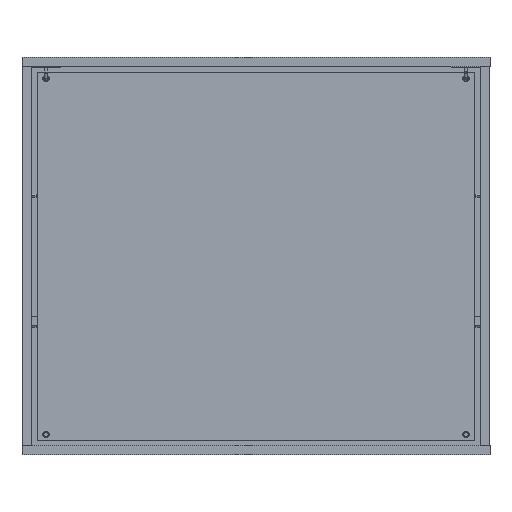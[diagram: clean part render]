
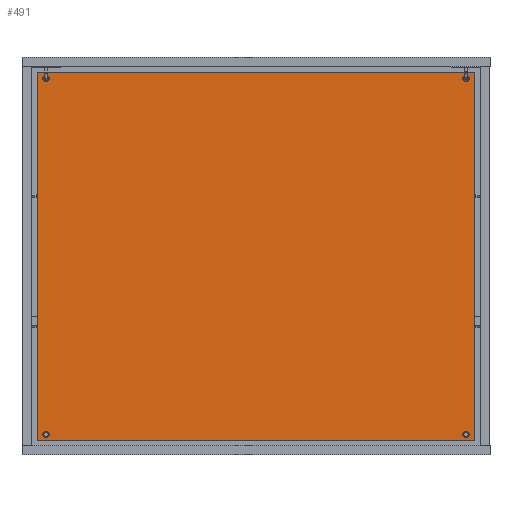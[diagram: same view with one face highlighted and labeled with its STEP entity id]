
A CAD part, front view. The second image highlights one B-rep face of the part: STEP entity #491.
In plain terms, the highlighted planar face has unit normal (0, -1, 0).
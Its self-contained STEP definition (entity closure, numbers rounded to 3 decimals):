
#277=FACE_BOUND('',#1093,.T.);
#278=FACE_BOUND('',#1094,.T.);
#279=FACE_BOUND('',#1095,.T.);
#280=FACE_BOUND('',#1096,.T.);
#491=ADVANCED_FACE('',(#776,#277,#278,#279,#280),#4440,.T.);
#776=FACE_OUTER_BOUND('',#1092,.T.);
#1092=EDGE_LOOP('',(#2145,#2146,#2147,#2148));
#1093=EDGE_LOOP('',(#2149,#2150));
#1094=EDGE_LOOP('',(#2151,#2152));
#1095=EDGE_LOOP('',(#2153,#2154));
#1096=EDGE_LOOP('',(#2155,#2156));
#2145=ORIENTED_EDGE('',*,*,#3014,.F.);
#2146=ORIENTED_EDGE('',*,*,#3018,.F.);
#2147=ORIENTED_EDGE('',*,*,#3021,.F.);
#2148=ORIENTED_EDGE('',*,*,#3024,.F.);
#2149=ORIENTED_EDGE('',*,*,#3003,.T.);
#2150=ORIENTED_EDGE('',*,*,#3028,.T.);
#2151=ORIENTED_EDGE('',*,*,#3006,.T.);
#2152=ORIENTED_EDGE('',*,*,#3031,.T.);
#2153=ORIENTED_EDGE('',*,*,#3009,.T.);
#2154=ORIENTED_EDGE('',*,*,#3034,.T.);
#2155=ORIENTED_EDGE('',*,*,#3012,.T.);
#2156=ORIENTED_EDGE('',*,*,#3037,.T.);
#3003=EDGE_CURVE('',#4205,#4220,#3852,.T.);
#3006=EDGE_CURVE('',#4207,#4223,#3854,.T.);
#3009=EDGE_CURVE('',#4209,#4225,#3856,.T.);
#3012=EDGE_CURVE('',#4211,#4226,#3858,.T.);
#3014=EDGE_CURVE('',#4212,#4213,#3512,.T.);
#3018=EDGE_CURVE('',#4216,#4212,#3516,.T.);
#3021=EDGE_CURVE('',#4218,#4216,#3519,.T.);
#3024=EDGE_CURVE('',#4213,#4218,#3522,.T.);
#3028=EDGE_CURVE('',#4220,#4205,#3860,.T.);
#3031=EDGE_CURVE('',#4223,#4207,#3862,.T.);
#3034=EDGE_CURVE('',#4225,#4209,#3864,.T.);
#3037=EDGE_CURVE('',#4226,#4211,#3866,.T.);
#3512=B_SPLINE_CURVE_WITH_KNOTS('',1,(#11547,#11548),.UNSPECIFIED.,.F.,
 .F.,(2,2),(0.,748.),.UNSPECIFIED.);
#3516=B_SPLINE_CURVE_WITH_KNOTS('',1,(#11555,#11556),.UNSPECIFIED.,.F.,
 .F.,(2,2),(0.,630.),.UNSPECIFIED.);
#3519=B_SPLINE_CURVE_WITH_KNOTS('',1,(#11561,#11562),.UNSPECIFIED.,.F.,
 .F.,(2,2),(0.,748.),.UNSPECIFIED.);
#3522=B_SPLINE_CURVE_WITH_KNOTS('',1,(#11567,#11568),.UNSPECIFIED.,.F.,
 .F.,(2,2),(0.,630.),.UNSPECIFIED.);
#3852=(
BOUNDED_CURVE()
B_SPLINE_CURVE(2,(#11504,#11505,#11506,#11507,#11508),.UNSPECIFIED.,.F.,
 .F.)
B_SPLINE_CURVE_WITH_KNOTS((3,2,3),(-25.133,-18.85,
-12.566),.UNSPECIFIED.)
CURVE()
GEOMETRIC_REPRESENTATION_ITEM()
RATIONAL_B_SPLINE_CURVE((1.,0.707,1.,0.707,1.))
REPRESENTATION_ITEM('')
);
#3854=(
BOUNDED_CURVE()
B_SPLINE_CURVE(2,(#11516,#11517,#11518,#11519,#11520),.UNSPECIFIED.,.F.,
 .F.)
B_SPLINE_CURVE_WITH_KNOTS((3,2,3),(-25.133,-18.85,
-12.566),.UNSPECIFIED.)
CURVE()
GEOMETRIC_REPRESENTATION_ITEM()
RATIONAL_B_SPLINE_CURVE((1.,0.707,1.,0.707,1.))
REPRESENTATION_ITEM('')
);
#3856=(
BOUNDED_CURVE()
B_SPLINE_CURVE(2,(#11528,#11529,#11530,#11531,#11532),.UNSPECIFIED.,.F.,
 .F.)
B_SPLINE_CURVE_WITH_KNOTS((3,2,3),(-25.133,-18.85,
-12.566),.UNSPECIFIED.)
CURVE()
GEOMETRIC_REPRESENTATION_ITEM()
RATIONAL_B_SPLINE_CURVE((1.,0.707,1.,0.707,1.))
REPRESENTATION_ITEM('')
);
#3858=(
BOUNDED_CURVE()
B_SPLINE_CURVE(2,(#11540,#11541,#11542,#11543,#11544),.UNSPECIFIED.,.F.,
 .F.)
B_SPLINE_CURVE_WITH_KNOTS((3,2,3),(-25.133,-18.85,
-12.566),.UNSPECIFIED.)
CURVE()
GEOMETRIC_REPRESENTATION_ITEM()
RATIONAL_B_SPLINE_CURVE((1.,0.707,1.,0.707,1.))
REPRESENTATION_ITEM('')
);
#3860=(
BOUNDED_CURVE()
B_SPLINE_CURVE(2,(#11578,#11579,#11580,#11581,#11582),.UNSPECIFIED.,.F.,
 .F.)
B_SPLINE_CURVE_WITH_KNOTS((3,2,3),(-12.566,-6.283,
0.),.UNSPECIFIED.)
CURVE()
GEOMETRIC_REPRESENTATION_ITEM()
RATIONAL_B_SPLINE_CURVE((1.,0.707,1.,0.707,1.))
REPRESENTATION_ITEM('')
);
#3862=(
BOUNDED_CURVE()
B_SPLINE_CURVE(2,(#11590,#11591,#11592,#11593,#11594),.UNSPECIFIED.,.F.,
 .F.)
B_SPLINE_CURVE_WITH_KNOTS((3,2,3),(-12.566,-6.283,
0.),.UNSPECIFIED.)
CURVE()
GEOMETRIC_REPRESENTATION_ITEM()
RATIONAL_B_SPLINE_CURVE((1.,0.707,1.,0.707,1.))
REPRESENTATION_ITEM('')
);
#3864=(
BOUNDED_CURVE()
B_SPLINE_CURVE(2,(#11602,#11603,#11604,#11605,#11606),.UNSPECIFIED.,.F.,
 .F.)
B_SPLINE_CURVE_WITH_KNOTS((3,2,3),(-12.566,-6.283,
0.),.UNSPECIFIED.)
CURVE()
GEOMETRIC_REPRESENTATION_ITEM()
RATIONAL_B_SPLINE_CURVE((1.,0.707,1.,0.707,1.))
REPRESENTATION_ITEM('')
);
#3866=(
BOUNDED_CURVE()
B_SPLINE_CURVE(2,(#11614,#11615,#11616,#11617,#11618),.UNSPECIFIED.,.F.,
 .F.)
B_SPLINE_CURVE_WITH_KNOTS((3,2,3),(-12.566,-6.283,
0.),.UNSPECIFIED.)
CURVE()
GEOMETRIC_REPRESENTATION_ITEM()
RATIONAL_B_SPLINE_CURVE((1.,0.707,1.,0.707,1.))
REPRESENTATION_ITEM('')
);
#4205=VERTEX_POINT('',#11476);
#4207=VERTEX_POINT('',#11478);
#4209=VERTEX_POINT('',#11480);
#4211=VERTEX_POINT('',#11482);
#4212=VERTEX_POINT('',#11483);
#4213=VERTEX_POINT('',#11484);
#4216=VERTEX_POINT('',#11487);
#4218=VERTEX_POINT('',#11489);
#4220=VERTEX_POINT('',#11491);
#4223=VERTEX_POINT('',#11494);
#4225=VERTEX_POINT('',#11496);
#4226=VERTEX_POINT('',#11497);
#4440=PLANE('',#5777);
#5777=AXIS2_PLACEMENT_3D('',#11470,#6103,$);
#6103=DIRECTION('',(0.,-1.,0.));
#11470=CARTESIAN_POINT('',(-448.92,0.,378.12));
#11476=CARTESIAN_POINT('',(363.,0.,-304.));
#11478=CARTESIAN_POINT('',(-363.,0.,-304.));
#11480=CARTESIAN_POINT('',(363.,0.,304.));
#11482=CARTESIAN_POINT('',(-363.,0.,304.));
#11483=CARTESIAN_POINT('',(-374.,0.,315.));
#11484=CARTESIAN_POINT('',(374.,0.,315.));
#11487=CARTESIAN_POINT('',(-374.,0.,-315.));
#11489=CARTESIAN_POINT('',(374.,0.,-315.));
#11491=CARTESIAN_POINT('',(355.,0.,-304.));
#11494=CARTESIAN_POINT('',(-355.,0.,-304.));
#11496=CARTESIAN_POINT('',(355.,0.,304.));
#11497=CARTESIAN_POINT('',(-355.,0.,304.));
#11504=CARTESIAN_POINT('',(363.,0.,-304.));
#11505=CARTESIAN_POINT('',(363.,0.,-308.));
#11506=CARTESIAN_POINT('',(359.,0.,-308.));
#11507=CARTESIAN_POINT('',(355.,0.,-308.));
#11508=CARTESIAN_POINT('',(355.,0.,-304.));
#11516=CARTESIAN_POINT('',(-363.,0.,-304.));
#11517=CARTESIAN_POINT('',(-363.,0.,-300.));
#11518=CARTESIAN_POINT('',(-359.,0.,-300.));
#11519=CARTESIAN_POINT('',(-355.,0.,-300.));
#11520=CARTESIAN_POINT('',(-355.,0.,-304.));
#11528=CARTESIAN_POINT('',(363.,0.,304.));
#11529=CARTESIAN_POINT('',(363.,0.,300.));
#11530=CARTESIAN_POINT('',(359.,0.,300.));
#11531=CARTESIAN_POINT('',(355.,0.,300.));
#11532=CARTESIAN_POINT('',(355.,0.,304.));
#11540=CARTESIAN_POINT('',(-363.,0.,304.));
#11541=CARTESIAN_POINT('',(-363.,0.,308.));
#11542=CARTESIAN_POINT('',(-359.,0.,308.));
#11543=CARTESIAN_POINT('',(-355.,0.,308.));
#11544=CARTESIAN_POINT('',(-355.,0.,304.));
#11547=CARTESIAN_POINT('',(-374.,0.,315.));
#11548=CARTESIAN_POINT('',(374.,0.,315.));
#11555=CARTESIAN_POINT('',(-374.,0.,-315.));
#11556=CARTESIAN_POINT('',(-374.,0.,315.));
#11561=CARTESIAN_POINT('',(374.,0.,-315.));
#11562=CARTESIAN_POINT('',(-374.,0.,-315.));
#11567=CARTESIAN_POINT('',(374.,0.,315.));
#11568=CARTESIAN_POINT('',(374.,0.,-315.));
#11578=CARTESIAN_POINT('',(355.,0.,-304.));
#11579=CARTESIAN_POINT('',(355.,0.,-300.));
#11580=CARTESIAN_POINT('',(359.,0.,-300.));
#11581=CARTESIAN_POINT('',(363.,0.,-300.));
#11582=CARTESIAN_POINT('',(363.,0.,-304.));
#11590=CARTESIAN_POINT('',(-355.,0.,-304.));
#11591=CARTESIAN_POINT('',(-355.,0.,-308.));
#11592=CARTESIAN_POINT('',(-359.,0.,-308.));
#11593=CARTESIAN_POINT('',(-363.,0.,-308.));
#11594=CARTESIAN_POINT('',(-363.,0.,-304.));
#11602=CARTESIAN_POINT('',(355.,0.,304.));
#11603=CARTESIAN_POINT('',(355.,0.,308.));
#11604=CARTESIAN_POINT('',(359.,0.,308.));
#11605=CARTESIAN_POINT('',(363.,0.,308.));
#11606=CARTESIAN_POINT('',(363.,0.,304.));
#11614=CARTESIAN_POINT('',(-355.,0.,304.));
#11615=CARTESIAN_POINT('',(-355.,0.,300.));
#11616=CARTESIAN_POINT('',(-359.,0.,300.));
#11617=CARTESIAN_POINT('',(-363.,0.,300.));
#11618=CARTESIAN_POINT('',(-363.,0.,304.));
